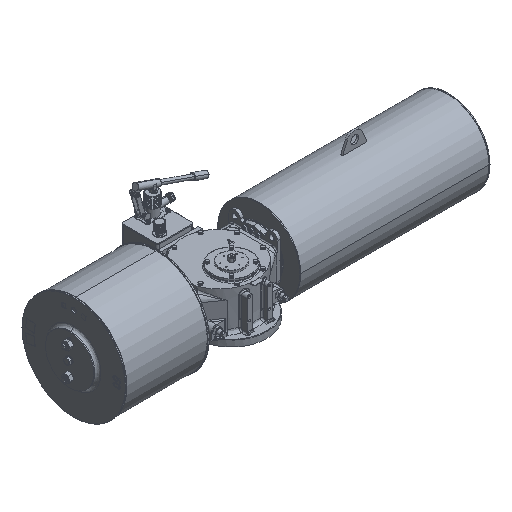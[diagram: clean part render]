
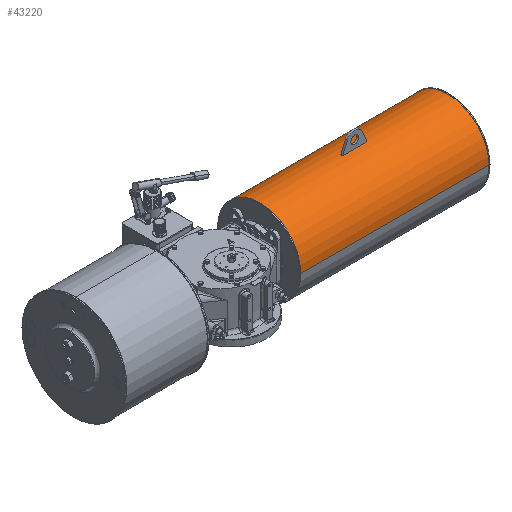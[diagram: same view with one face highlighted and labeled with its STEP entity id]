
A CAD part, isometric view. The second image highlights one B-rep face of the part: STEP entity #43220.
In plain terms, the highlighted cylindrical face has radius 203.2 mm (diameter 406.4 mm), a partial arc.
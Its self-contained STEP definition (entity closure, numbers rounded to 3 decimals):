
#2967 = CARTESIAN_POINT ( 'NONE',  ( 774., 113., 285.638 ) ) ;
#5470 = ORIENTED_EDGE ( 'NONE', *, *, #70036, .T. ) ;
#5855 = VERTEX_POINT ( 'NONE', #71280 ) ;
#6759 = DIRECTION ( 'NONE',  ( 0., -1., 0. ) ) ;
#7321 = CIRCLE ( 'NONE', #97601, 203.2 ) ;
#9808 = AXIS2_PLACEMENT_3D ( 'NONE', #61404, #39050, #25138 ) ;
#10171 = EDGE_LOOP ( 'NONE', ( #5470, #55338, #36762, #74097, #32586 ) ) ;
#10195 = EDGE_CURVE ( 'NONE', #38932, #49890, #69269, .T. ) ;
#12811 = CARTESIAN_POINT ( 'NONE',  ( 774., 103., 285.638 ) ) ;
#14159 = DIRECTION ( 'NONE',  ( 0., 0., -1. ) ) ;
#14312 = CARTESIAN_POINT ( 'NONE',  ( 774., 108., 285.7 ) ) ;
#14711 = CARTESIAN_POINT ( 'NONE',  ( 1176.5, -95.2, 82.5 ) ) ;
#14723 = CARTESIAN_POINT ( 'NONE',  ( 1176.5, 108., 82.5 ) ) ;
#15156 = CARTESIAN_POINT ( 'NONE',  ( 248.3, 108., 82.5 ) ) ;
#18241 = EDGE_LOOP ( 'NONE', ( #45157, #47110, #35232, #81933, #76012, #91104 ) ) ;
#21188 = FACE_BOUND ( 'NONE', #18241, .T. ) ;
#21987 = VERTEX_POINT ( 'NONE', #2967 ) ;
#23205 = EDGE_CURVE ( 'NONE', #21987, #80607, #66448, .T. ) ;
#23613 = LINE ( 'NONE', #14711, #56297 ) ;
#23688 = EDGE_CURVE ( 'NONE', #5855, #72473, #80715, .T. ) ;
#25138 = DIRECTION ( 'NONE',  ( 0., 0., 1. ) ) ;
#25157 = CARTESIAN_POINT ( 'NONE',  ( 248.3, 108., 82.5 ) ) ;
#26501 = AXIS2_PLACEMENT_3D ( 'NONE', #89562, #51884, #14159 ) ;
#27702 = CARTESIAN_POINT ( 'NONE',  ( 1176.5, 103., 285.638 ) ) ;
#27806 = CARTESIAN_POINT ( 'NONE',  ( 1179.7, -95.2, 82.5 ) ) ;
#28605 = DIRECTION ( 'NONE',  ( -1., 0., 0. ) ) ;
#29831 = EDGE_CURVE ( 'NONE', #70587, #68900, #23613, .T. ) ;
#31842 = VERTEX_POINT ( 'NONE', #12811 ) ;
#32586 = ORIENTED_EDGE ( 'NONE', *, *, #29831, .F. ) ;
#35212 = CARTESIAN_POINT ( 'NONE',  ( 1176.5, 113., 285.638 ) ) ;
#35232 = ORIENTED_EDGE ( 'NONE', *, *, #47467, .T. ) ;
#35852 = CARTESIAN_POINT ( 'NONE',  ( 248.3, -95.2, 82.5 ) ) ;
#36276 = CIRCLE ( 'NONE', #91681, 203.2 ) ;
#36762 = ORIENTED_EDGE ( 'NONE', *, *, #81278, .T. ) ;
#36795 = AXIS2_PLACEMENT_3D ( 'NONE', #25157, #51427, #6759 ) ;
#37993 = DIRECTION ( 'NONE',  ( 1., 0., 0. ) ) ;
#38932 = VERTEX_POINT ( 'NONE', #96293 ) ;
#39050 = DIRECTION ( 'NONE',  ( 1., 0., 0. ) ) ;
#42201 = DIRECTION ( 'NONE',  ( -1., 0., 0. ) ) ;
#43220 = ADVANCED_FACE ( 'NONE', ( #21188, #89158 ), #83671, .T. ) ;
#44683 = CIRCLE ( 'NONE', #9808, 203.2 ) ;
#45157 = ORIENTED_EDGE ( 'NONE', *, *, #72224, .T. ) ;
#45966 = DIRECTION ( 'NONE',  ( -1., 0., 0. ) ) ;
#46699 = EDGE_CURVE ( 'NONE', #89087, #68900, #71679, .T. ) ;
#47110 = ORIENTED_EDGE ( 'NONE', *, *, #10195, .T. ) ;
#47467 = EDGE_CURVE ( 'NONE', #49890, #80607, #59194, .T. ) ;
#48195 = CARTESIAN_POINT ( 'NONE',  ( 248.3, 108., 285.7 ) ) ;
#49087 = CARTESIAN_POINT ( 'NONE',  ( 654., 113., 285.638 ) ) ;
#49890 = VERTEX_POINT ( 'NONE', #85122 ) ;
#50049 = LINE ( 'NONE', #27702, #82416 ) ;
#51427 = DIRECTION ( 'NONE',  ( 1., 0., 0. ) ) ;
#51884 = DIRECTION ( 'NONE',  ( -1., 0., 0. ) ) ;
#52009 = AXIS2_PLACEMENT_3D ( 'NONE', #57105, #42201, #65525 ) ;
#55338 = ORIENTED_EDGE ( 'NONE', *, *, #23688, .T. ) ;
#56297 = VECTOR ( 'NONE', #75229, 1000. ) ;
#57105 = CARTESIAN_POINT ( 'NONE',  ( 1179.7, 108., 82.5 ) ) ;
#59194 = CIRCLE ( 'NONE', #92327, 203.2 ) ;
#61404 = CARTESIAN_POINT ( 'NONE',  ( 774., 108., 82.5 ) ) ;
#65525 = DIRECTION ( 'NONE',  ( 0., -1., 0. ) ) ;
#65696 = EDGE_CURVE ( 'NONE', #80647, #31842, #7321, .T. ) ;
#66448 = LINE ( 'NONE', #35212, #76461 ) ;
#67700 = AXIS2_PLACEMENT_3D ( 'NONE', #14723, #45966, #68769 ) ;
#68248 = DIRECTION ( 'NONE',  ( 0., -1., 0. ) ) ;
#68769 = DIRECTION ( 'NONE',  ( 0., -1., 0. ) ) ;
#68900 = VERTEX_POINT ( 'NONE', #35852 ) ;
#69269 = CIRCLE ( 'NONE', #26501, 203.2 ) ;
#70036 = EDGE_CURVE ( 'NONE', #70587, #5855, #72582, .T. ) ;
#70377 = DIRECTION ( 'NONE',  ( 1., 0., 0. ) ) ;
#70587 = VERTEX_POINT ( 'NONE', #27806 ) ;
#71280 = CARTESIAN_POINT ( 'NONE',  ( 1179.7, 311.2, 82.5 ) ) ;
#71679 = CIRCLE ( 'NONE', #36795, 203.2 ) ;
#71768 = VECTOR ( 'NONE', #28605, 1000. ) ;
#72224 = EDGE_CURVE ( 'NONE', #31842, #38932, #50049, .T. ) ;
#72473 = VERTEX_POINT ( 'NONE', #81752 ) ;
#72582 = CIRCLE ( 'NONE', #52009, 203.2 ) ;
#73611 = EDGE_CURVE ( 'NONE', #21987, #80647, #44683, .T. ) ;
#74097 = ORIENTED_EDGE ( 'NONE', *, *, #46699, .T. ) ;
#75229 = DIRECTION ( 'NONE',  ( -1., 0., 0. ) ) ;
#76012 = ORIENTED_EDGE ( 'NONE', *, *, #73611, .T. ) ;
#76461 = VECTOR ( 'NONE', #79857, 1000. ) ;
#76845 = DIRECTION ( 'NONE',  ( 0., 0., 1. ) ) ;
#77830 = CARTESIAN_POINT ( 'NONE',  ( 774., 108., 82.5 ) ) ;
#79857 = DIRECTION ( 'NONE',  ( -1., 0., 0. ) ) ;
#80607 = VERTEX_POINT ( 'NONE', #49087 ) ;
#80647 = VERTEX_POINT ( 'NONE', #14312 ) ;
#80715 = LINE ( 'NONE', #94587, #71768 ) ;
#81278 = EDGE_CURVE ( 'NONE', #72473, #89087, #36276, .T. ) ;
#81752 = CARTESIAN_POINT ( 'NONE',  ( 248.3, 311.2, 82.5 ) ) ;
#81800 = CARTESIAN_POINT ( 'NONE',  ( 654., 108., 82.5 ) ) ;
#81933 = ORIENTED_EDGE ( 'NONE', *, *, #23205, .F. ) ;
#82416 = VECTOR ( 'NONE', #94170, 1000. ) ;
#82787 = DIRECTION ( 'NONE',  ( -1., 0., 0. ) ) ;
#83671 = CYLINDRICAL_SURFACE ( 'NONE', #67700, 203.2 ) ;
#85122 = CARTESIAN_POINT ( 'NONE',  ( 654., 108., 285.7 ) ) ;
#89087 = VERTEX_POINT ( 'NONE', #48195 ) ;
#89158 = FACE_OUTER_BOUND ( 'NONE', #10171, .T. ) ;
#89562 = CARTESIAN_POINT ( 'NONE',  ( 654., 108., 82.5 ) ) ;
#91104 = ORIENTED_EDGE ( 'NONE', *, *, #65696, .T. ) ;
#91681 = AXIS2_PLACEMENT_3D ( 'NONE', #15156, #37993, #68248 ) ;
#92327 = AXIS2_PLACEMENT_3D ( 'NONE', #81800, #82787, #97165 ) ;
#94170 = DIRECTION ( 'NONE',  ( -1., 0., 0. ) ) ;
#94587 = CARTESIAN_POINT ( 'NONE',  ( 1176.5, 311.2, 82.5 ) ) ;
#96293 = CARTESIAN_POINT ( 'NONE',  ( 654., 103., 285.638 ) ) ;
#97165 = DIRECTION ( 'NONE',  ( 0., 0., -1. ) ) ;
#97601 = AXIS2_PLACEMENT_3D ( 'NONE', #77830, #70377, #76845 ) ;
